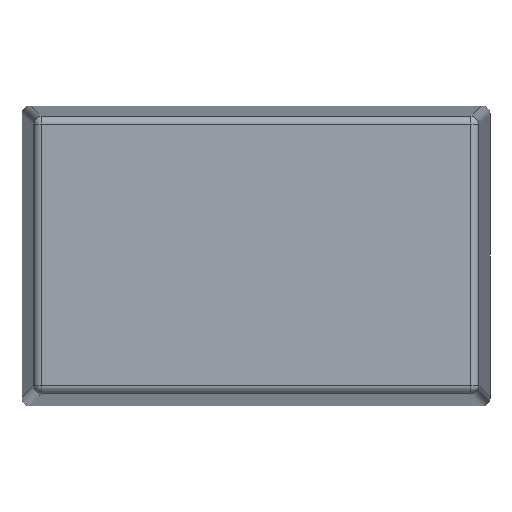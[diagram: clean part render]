
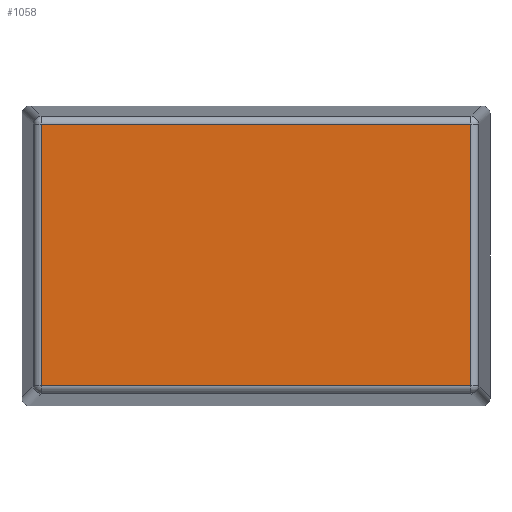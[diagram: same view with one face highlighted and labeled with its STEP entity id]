
A CAD part, top view. The second image highlights one B-rep face of the part: STEP entity #1058.
In plain terms, the highlighted planar face has unit normal (0, 0, 1).
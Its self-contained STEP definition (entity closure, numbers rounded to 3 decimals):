
#25 = EDGE_CURVE ( 'NONE', #429, #690, #1059, .T. ) ;
#34 = FACE_OUTER_BOUND ( 'NONE', #635, .T. ) ;
#71 = LINE ( 'NONE', #882, #617 ) ;
#106 = CARTESIAN_POINT ( 'NONE',  ( 5.365, -3.265, 16.5 ) ) ;
#113 = ORIENTED_EDGE ( 'NONE', *, *, #441, .T. ) ;
#141 = LINE ( 'NONE', #936, #389 ) ;
#229 = ORIENTED_EDGE ( 'NONE', *, *, #438, .T. ) ;
#237 = CARTESIAN_POINT ( 'NONE',  ( -5.365, -3.265, 16.5 ) ) ;
#288 = DIRECTION ( 'NONE',  ( 0., -1., 0. ) ) ;
#389 = VECTOR ( 'NONE', #1032, 1000. ) ;
#400 = DIRECTION ( 'NONE',  ( -1., 0., 0. ) ) ;
#429 = VERTEX_POINT ( 'NONE', #237 ) ;
#438 = EDGE_CURVE ( 'NONE', #690, #716, #141, .T. ) ;
#441 = EDGE_CURVE ( 'NONE', #716, #747, #1043, .T. ) ;
#452 = CARTESIAN_POINT ( 'NONE',  ( 0., 3.265, 16.5 ) ) ;
#510 = CARTESIAN_POINT ( 'NONE',  ( 5.365, 3.265, 16.5 ) ) ;
#536 = VECTOR ( 'NONE', #1184, 1000. ) ;
#548 = DIRECTION ( 'NONE',  ( -1., 0., 0. ) ) ;
#591 = PLANE ( 'NONE',  #990 ) ;
#592 = ORIENTED_EDGE ( 'NONE', *, *, #25, .T. ) ;
#617 = VECTOR ( 'NONE', #288, 1000. ) ;
#635 = EDGE_LOOP ( 'NONE', ( #1291, #592, #229, #113 ) ) ;
#648 = VECTOR ( 'NONE', #548, 1000. ) ;
#690 = VERTEX_POINT ( 'NONE', #106 ) ;
#716 = VERTEX_POINT ( 'NONE', #510 ) ;
#747 = VERTEX_POINT ( 'NONE', #801 ) ;
#781 = CARTESIAN_POINT ( 'NONE',  ( 0., 0., 16.5 ) ) ;
#801 = CARTESIAN_POINT ( 'NONE',  ( -5.365, 3.265, 16.5 ) ) ;
#882 = CARTESIAN_POINT ( 'NONE',  ( -5.365, 0., 16.5 ) ) ;
#936 = CARTESIAN_POINT ( 'NONE',  ( 5.365, 0., 16.5 ) ) ;
#969 = DIRECTION ( 'NONE',  ( 0., 0., -1. ) ) ;
#974 = EDGE_CURVE ( 'NONE', #747, #429, #71, .T. ) ;
#990 = AXIS2_PLACEMENT_3D ( 'NONE', #781, #969, #400 ) ;
#1032 = DIRECTION ( 'NONE',  ( 0., 1., 0. ) ) ;
#1043 = LINE ( 'NONE', #452, #648 ) ;
#1058 = ADVANCED_FACE ( 'NONE', ( #34 ), #591, .F. ) ;
#1059 = LINE ( 'NONE', #1068, #536 ) ;
#1068 = CARTESIAN_POINT ( 'NONE',  ( 0., -3.265, 16.5 ) ) ;
#1184 = DIRECTION ( 'NONE',  ( 1., 0., 0. ) ) ;
#1291 = ORIENTED_EDGE ( 'NONE', *, *, #974, .T. ) ;
